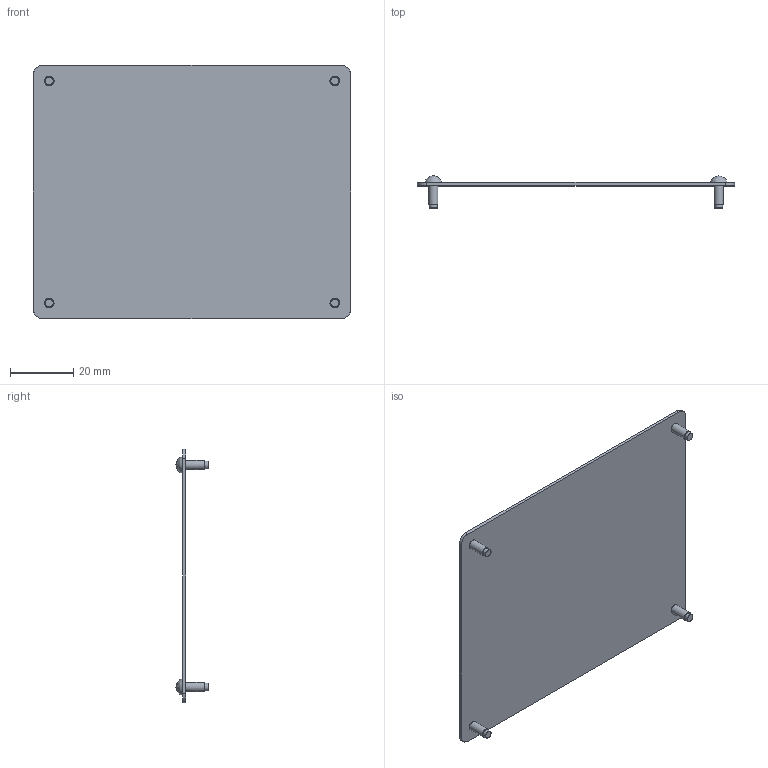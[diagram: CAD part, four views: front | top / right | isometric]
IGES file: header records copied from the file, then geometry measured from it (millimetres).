
Start section: VISI Layer Mapping Iges    VISI  0      LAYER0  1      WARNINGS
Global section: file name: G:\Produktkommunikation\Support\CD-Online-Katalog\3D Daten Produkte\E19100\STEP\E19100_80100_1_4.igs; native system: VISI 20.0; preprocessor: 2.0; author: nus; organization: Unknown; date: 20140919.095605; units: millimetre
Bounding box: 100 x 10.1 x 80 mm (x, y, z)
Surface area: 16844.6 mm2 (no closed solid volume)
Topology: 0 solids, 0 shells, 38 faces, 632 edges, 608 vertices
Faces by surface type: bspline 38
